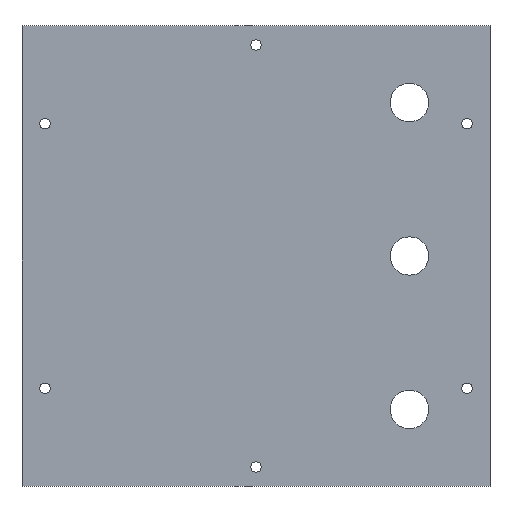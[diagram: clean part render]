
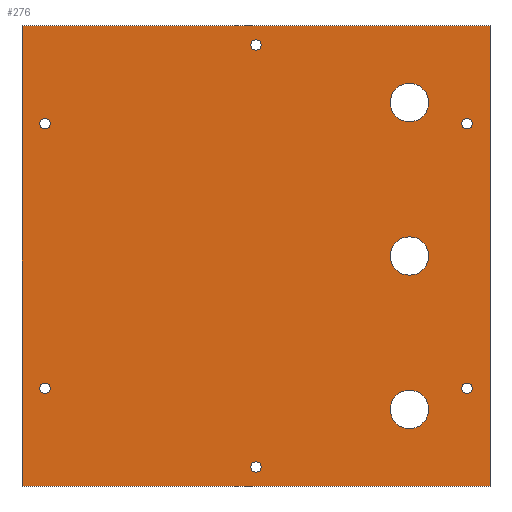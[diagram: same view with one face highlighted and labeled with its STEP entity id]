
A CAD part, top view. The second image highlights one B-rep face of the part: STEP entity #276.
In plain terms, the highlighted planar face has unit normal (0, 0, 1).
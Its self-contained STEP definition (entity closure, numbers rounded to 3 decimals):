
#55=AXIS2_PLACEMENT_3D('Circle Axis2P3D',#53,#54,$) ;
#79=AXIS2_PLACEMENT_3D('Circle Axis2P3D',#77,#78,$) ;
#92=AXIS2_PLACEMENT_3D('Plane Axis2P3D',#89,#90,#91) ;
#130=AXIS2_PLACEMENT_3D('Circle Axis2P3D',#128,#129,$) ;
#139=AXIS2_PLACEMENT_3D('Circle Axis2P3D',#137,#138,$) ;
#148=AXIS2_PLACEMENT_3D('Circle Axis2P3D',#146,#147,$) ;
#157=AXIS2_PLACEMENT_3D('Circle Axis2P3D',#155,#156,$) ;
#166=AXIS2_PLACEMENT_3D('Circle Axis2P3D',#164,#165,$) ;
#175=AXIS2_PLACEMENT_3D('Circle Axis2P3D',#173,#174,$) ;
#184=AXIS2_PLACEMENT_3D('Circle Axis2P3D',#182,#183,$) ;
#193=AXIS2_PLACEMENT_3D('Circle Axis2P3D',#191,#192,$) ;
#202=AXIS2_PLACEMENT_3D('Circle Axis2P3D',#200,#201,$) ;
#211=AXIS2_PLACEMENT_3D('Circle Axis2P3D',#209,#210,$) ;
#220=AXIS2_PLACEMENT_3D('Circle Axis2P3D',#218,#219,$) ;
#229=AXIS2_PLACEMENT_3D('Circle Axis2P3D',#227,#228,$) ;
#238=AXIS2_PLACEMENT_3D('Circle Axis2P3D',#236,#237,$) ;
#247=AXIS2_PLACEMENT_3D('Circle Axis2P3D',#245,#246,$) ;
#260=AXIS2_PLACEMENT_3D('Circle Axis2P3D',#258,#259,$) ;
#269=AXIS2_PLACEMENT_3D('Circle Axis2P3D',#267,#268,$) ;
#50=CARTESIAN_POINT('Vertex',(119.25,-10.,2.)) ;
#53=CARTESIAN_POINT('Axis2P3D Location',(122.,-10.,2.)) ;
#57=CARTESIAN_POINT('Vertex',(124.75,-10.,2.)) ;
#77=CARTESIAN_POINT('Axis2P3D Location',(122.,-10.,2.)) ;
#89=CARTESIAN_POINT('Axis2P3D Location',(0.,0.,2.)) ;
#94=CARTESIAN_POINT('Line Origine',(0.,-120.,2.)) ;
#98=CARTESIAN_POINT('Vertex',(0.,0.,2.)) ;
#100=CARTESIAN_POINT('Vertex',(0.,-240.,2.)) ;
#103=CARTESIAN_POINT('Line Origine',(122.,-240.,2.)) ;
#107=CARTESIAN_POINT('Vertex',(244.,-240.,2.)) ;
#110=CARTESIAN_POINT('Line Origine',(244.,-120.,2.)) ;
#114=CARTESIAN_POINT('Vertex',(244.,0.,2.)) ;
#117=CARTESIAN_POINT('Line Origine',(122.,0.,2.)) ;
#128=CARTESIAN_POINT('Axis2P3D Location',(202.,-200.,2.)) ;
#132=CARTESIAN_POINT('Vertex',(212.,-200.,2.)) ;
#134=CARTESIAN_POINT('Vertex',(192.,-200.,2.)) ;
#137=CARTESIAN_POINT('Axis2P3D Location',(202.,-200.,2.)) ;
#146=CARTESIAN_POINT('Axis2P3D Location',(202.,-120.,2.)) ;
#150=CARTESIAN_POINT('Vertex',(212.,-120.,2.)) ;
#152=CARTESIAN_POINT('Vertex',(192.,-120.,2.)) ;
#155=CARTESIAN_POINT('Axis2P3D Location',(202.,-120.,2.)) ;
#164=CARTESIAN_POINT('Axis2P3D Location',(202.,-40.,2.)) ;
#168=CARTESIAN_POINT('Vertex',(212.,-40.,2.)) ;
#170=CARTESIAN_POINT('Vertex',(192.,-40.,2.)) ;
#173=CARTESIAN_POINT('Axis2P3D Location',(202.,-40.,2.)) ;
#182=CARTESIAN_POINT('Axis2P3D Location',(12.,-51.,2.)) ;
#186=CARTESIAN_POINT('Vertex',(9.25,-51.,2.)) ;
#188=CARTESIAN_POINT('Vertex',(14.75,-51.,2.)) ;
#191=CARTESIAN_POINT('Axis2P3D Location',(12.,-51.,2.)) ;
#200=CARTESIAN_POINT('Axis2P3D Location',(12.,-189.,2.)) ;
#204=CARTESIAN_POINT('Vertex',(9.25,-189.,2.)) ;
#206=CARTESIAN_POINT('Vertex',(14.75,-189.,2.)) ;
#209=CARTESIAN_POINT('Axis2P3D Location',(12.,-189.,2.)) ;
#218=CARTESIAN_POINT('Axis2P3D Location',(232.,-189.,2.)) ;
#222=CARTESIAN_POINT('Vertex',(229.25,-189.,2.)) ;
#224=CARTESIAN_POINT('Vertex',(234.75,-189.,2.)) ;
#227=CARTESIAN_POINT('Axis2P3D Location',(232.,-189.,2.)) ;
#236=CARTESIAN_POINT('Axis2P3D Location',(232.,-51.,2.)) ;
#240=CARTESIAN_POINT('Vertex',(229.25,-51.,2.)) ;
#242=CARTESIAN_POINT('Vertex',(234.75,-51.,2.)) ;
#245=CARTESIAN_POINT('Axis2P3D Location',(232.,-51.,2.)) ;
#258=CARTESIAN_POINT('Axis2P3D Location',(122.,-230.,2.)) ;
#262=CARTESIAN_POINT('Vertex',(124.75,-230.,2.)) ;
#264=CARTESIAN_POINT('Vertex',(119.25,-230.,2.)) ;
#267=CARTESIAN_POINT('Axis2P3D Location',(122.,-230.,2.)) ;
#54=DIRECTION('Axis2P3D Direction',(0.,0.,1.)) ;
#78=DIRECTION('Axis2P3D Direction',(0.,0.,1.)) ;
#90=DIRECTION('Axis2P3D Direction',(0.,0.,1.)) ;
#91=DIRECTION('Axis2P3D XDirection',(1.,0.,0.)) ;
#95=DIRECTION('Vector Direction',(0.,-1.,0.)) ;
#104=DIRECTION('Vector Direction',(-1.,0.,0.)) ;
#111=DIRECTION('Vector Direction',(0.,1.,0.)) ;
#118=DIRECTION('Vector Direction',(1.,0.,0.)) ;
#129=DIRECTION('Axis2P3D Direction',(0.,0.,1.)) ;
#138=DIRECTION('Axis2P3D Direction',(0.,0.,1.)) ;
#147=DIRECTION('Axis2P3D Direction',(0.,0.,1.)) ;
#156=DIRECTION('Axis2P3D Direction',(0.,0.,1.)) ;
#165=DIRECTION('Axis2P3D Direction',(0.,0.,1.)) ;
#174=DIRECTION('Axis2P3D Direction',(0.,0.,1.)) ;
#183=DIRECTION('Axis2P3D Direction',(0.,0.,1.)) ;
#192=DIRECTION('Axis2P3D Direction',(0.,0.,1.)) ;
#201=DIRECTION('Axis2P3D Direction',(0.,0.,1.)) ;
#210=DIRECTION('Axis2P3D Direction',(0.,0.,1.)) ;
#219=DIRECTION('Axis2P3D Direction',(0.,0.,1.)) ;
#228=DIRECTION('Axis2P3D Direction',(0.,0.,1.)) ;
#237=DIRECTION('Axis2P3D Direction',(0.,0.,1.)) ;
#246=DIRECTION('Axis2P3D Direction',(0.,0.,1.)) ;
#259=DIRECTION('Axis2P3D Direction',(0.,0.,1.)) ;
#268=DIRECTION('Axis2P3D Direction',(0.,0.,1.)) ;
#96=VECTOR('Line Direction',#95,1.) ;
#105=VECTOR('Line Direction',#104,1.) ;
#112=VECTOR('Line Direction',#111,1.) ;
#119=VECTOR('Line Direction',#118,1.) ;
#123=ORIENTED_EDGE('',*,*,#102,.T.) ;
#124=ORIENTED_EDGE('',*,*,#109,.T.) ;
#125=ORIENTED_EDGE('',*,*,#116,.T.) ;
#126=ORIENTED_EDGE('',*,*,#121,.T.) ;
#143=ORIENTED_EDGE('',*,*,#136,.F.) ;
#144=ORIENTED_EDGE('',*,*,#141,.F.) ;
#161=ORIENTED_EDGE('',*,*,#154,.F.) ;
#162=ORIENTED_EDGE('',*,*,#159,.F.) ;
#179=ORIENTED_EDGE('',*,*,#172,.F.) ;
#180=ORIENTED_EDGE('',*,*,#177,.F.) ;
#197=ORIENTED_EDGE('',*,*,#190,.F.) ;
#198=ORIENTED_EDGE('',*,*,#195,.F.) ;
#215=ORIENTED_EDGE('',*,*,#208,.F.) ;
#216=ORIENTED_EDGE('',*,*,#213,.F.) ;
#233=ORIENTED_EDGE('',*,*,#226,.F.) ;
#234=ORIENTED_EDGE('',*,*,#231,.F.) ;
#251=ORIENTED_EDGE('',*,*,#244,.F.) ;
#252=ORIENTED_EDGE('',*,*,#249,.F.) ;
#255=ORIENTED_EDGE('',*,*,#81,.F.) ;
#256=ORIENTED_EDGE('',*,*,#59,.F.) ;
#273=ORIENTED_EDGE('',*,*,#266,.F.) ;
#274=ORIENTED_EDGE('',*,*,#271,.F.) ;
#145=FACE_BOUND('',#142,.T.) ;
#163=FACE_BOUND('',#160,.T.) ;
#181=FACE_BOUND('',#178,.T.) ;
#199=FACE_BOUND('',#196,.T.) ;
#217=FACE_BOUND('',#214,.T.) ;
#235=FACE_BOUND('',#232,.T.) ;
#253=FACE_BOUND('',#250,.T.) ;
#257=FACE_BOUND('',#254,.T.) ;
#275=FACE_BOUND('',#272,.T.) ;
#276=ADVANCED_FACE('\X2\96F64EF651E04F554F53\X0\',(#127,#145,#163,#181,#199,#217,#235,#253,#257,#275),#93,.T.) ;
#56=CIRCLE('generated circle',#55,2.75) ;
#80=CIRCLE('generated circle',#79,2.75) ;
#131=CIRCLE('generated circle',#130,10.) ;
#140=CIRCLE('generated circle',#139,10.) ;
#149=CIRCLE('generated circle',#148,10.) ;
#158=CIRCLE('generated circle',#157,10.) ;
#167=CIRCLE('generated circle',#166,10.) ;
#176=CIRCLE('generated circle',#175,10.) ;
#185=CIRCLE('generated circle',#184,2.75) ;
#194=CIRCLE('generated circle',#193,2.75) ;
#203=CIRCLE('generated circle',#202,2.75) ;
#212=CIRCLE('generated circle',#211,2.75) ;
#221=CIRCLE('generated circle',#220,2.75) ;
#230=CIRCLE('generated circle',#229,2.75) ;
#239=CIRCLE('generated circle',#238,2.75) ;
#248=CIRCLE('generated circle',#247,2.75) ;
#261=CIRCLE('generated circle',#260,2.75) ;
#270=CIRCLE('generated circle',#269,2.75) ;
#59=EDGE_CURVE('',#51,#58,#56,.T.) ;
#81=EDGE_CURVE('',#58,#51,#80,.T.) ;
#102=EDGE_CURVE('',#99,#101,#97,.T.) ;
#109=EDGE_CURVE('',#101,#108,#106,.F.) ;
#116=EDGE_CURVE('',#108,#115,#113,.T.) ;
#121=EDGE_CURVE('',#115,#99,#120,.F.) ;
#136=EDGE_CURVE('',#133,#135,#131,.T.) ;
#141=EDGE_CURVE('',#135,#133,#140,.T.) ;
#154=EDGE_CURVE('',#151,#153,#149,.T.) ;
#159=EDGE_CURVE('',#153,#151,#158,.T.) ;
#172=EDGE_CURVE('',#169,#171,#167,.T.) ;
#177=EDGE_CURVE('',#171,#169,#176,.T.) ;
#190=EDGE_CURVE('',#187,#189,#185,.T.) ;
#195=EDGE_CURVE('',#189,#187,#194,.T.) ;
#208=EDGE_CURVE('',#205,#207,#203,.T.) ;
#213=EDGE_CURVE('',#207,#205,#212,.T.) ;
#226=EDGE_CURVE('',#223,#225,#221,.T.) ;
#231=EDGE_CURVE('',#225,#223,#230,.T.) ;
#244=EDGE_CURVE('',#241,#243,#239,.T.) ;
#249=EDGE_CURVE('',#243,#241,#248,.T.) ;
#266=EDGE_CURVE('',#263,#265,#261,.T.) ;
#271=EDGE_CURVE('',#265,#263,#270,.T.) ;
#122=EDGE_LOOP('',(#123,#124,#125,#126)) ;
#142=EDGE_LOOP('',(#143,#144)) ;
#160=EDGE_LOOP('',(#161,#162)) ;
#178=EDGE_LOOP('',(#179,#180)) ;
#196=EDGE_LOOP('',(#197,#198)) ;
#214=EDGE_LOOP('',(#215,#216)) ;
#232=EDGE_LOOP('',(#233,#234)) ;
#250=EDGE_LOOP('',(#251,#252)) ;
#254=EDGE_LOOP('',(#255,#256)) ;
#272=EDGE_LOOP('',(#273,#274)) ;
#127=FACE_OUTER_BOUND('',#122,.T.) ;
#97=LINE('Line',#94,#96) ;
#106=LINE('Line',#103,#105) ;
#113=LINE('Line',#110,#112) ;
#120=LINE('Line',#117,#119) ;
#93=PLANE('',#92) ;
#51=VERTEX_POINT('',#50) ;
#58=VERTEX_POINT('',#57) ;
#99=VERTEX_POINT('',#98) ;
#101=VERTEX_POINT('',#100) ;
#108=VERTEX_POINT('',#107) ;
#115=VERTEX_POINT('',#114) ;
#133=VERTEX_POINT('',#132) ;
#135=VERTEX_POINT('',#134) ;
#151=VERTEX_POINT('',#150) ;
#153=VERTEX_POINT('',#152) ;
#169=VERTEX_POINT('',#168) ;
#171=VERTEX_POINT('',#170) ;
#187=VERTEX_POINT('',#186) ;
#189=VERTEX_POINT('',#188) ;
#205=VERTEX_POINT('',#204) ;
#207=VERTEX_POINT('',#206) ;
#223=VERTEX_POINT('',#222) ;
#225=VERTEX_POINT('',#224) ;
#241=VERTEX_POINT('',#240) ;
#243=VERTEX_POINT('',#242) ;
#263=VERTEX_POINT('',#262) ;
#265=VERTEX_POINT('',#264) ;
